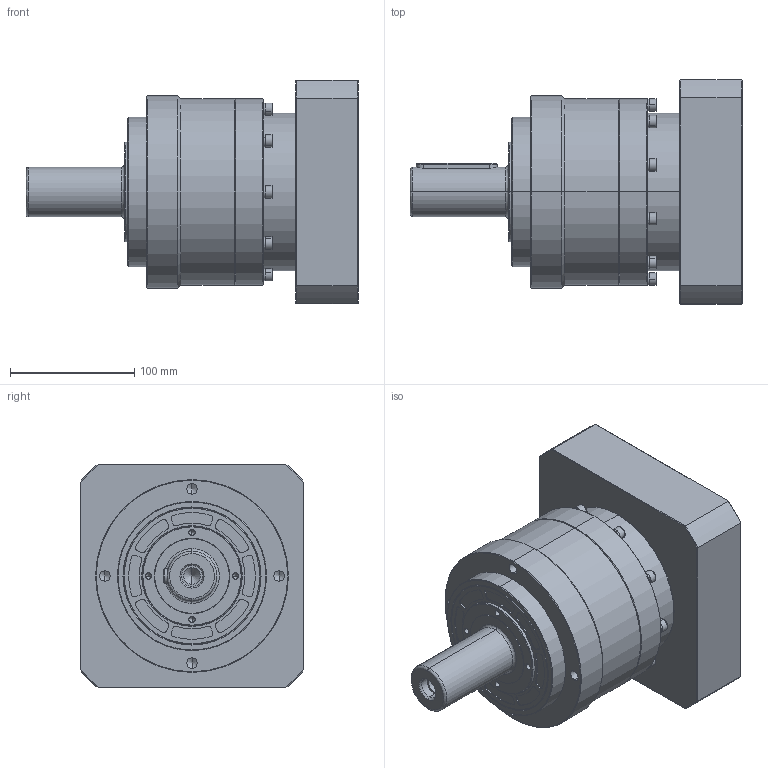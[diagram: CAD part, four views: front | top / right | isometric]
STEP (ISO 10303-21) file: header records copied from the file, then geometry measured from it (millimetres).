
FILE_DESCRIPTION (( 'STEP AP214' ), '1' );
FILE_NAME ('VRL-155-L1-S2-P1 35-114.3-200-M12.STEP', '2023-07-14T03:10:14', ( '微软用户' ), ( '微软中国' ), 'SwSTEP 2.0', 'SolidWorks 2018', '' );
FILE_SCHEMA (( 'AUTOMOTIVE_DESIGN' ));
Length unit declared in the file: millimetre
Products named in the file (12): 一级齿圈加出轴VRL-155外形图; hexagon socket head cap screws gb_GB_FASTENER_SCREWS_HSHCS M6X35-N; spring lock washers--normal type gb_GB_FASTENER_WASHER_SW 6; 標杶D40 VRB-142-35謂蚚; hexagon socket head cap screws gb_GB_FASTENER_SCREWS_HSHCS M10X35-N; spring lock washers--normal type gb_GB_FASTENER_WASHER_SW 8; VRL-155-L1-S2-P1 35-114.3-200-M12; 萇儂楊VRB-142-114.3-M12-200F180H47; hex socket set screws with flat point gb_GB_FASTENER_SCREWS_HSFP M16X16-N; hexagon socket head cap screws gb_GB_FASTENER_SCREWS_HSHCS M8X30-N; 一级整体太阳轮VRB-142-D35外形图; 笢潔楊擘VRB-142俋倛芞
Assembly tree (39 placements, depth 2):
  VRL-155-L1-S2-P1 35-114.3-200-M12
    一级齿圈加出轴VRL-155外形图
    笢潔楊擘VRB-142俋倛芞
    萇儂楊VRB-142-114.3-M12-200F180H47
    spring lock washers--normal type gb_GB_FASTENER_WASHER_SW 6  x10
    hexagon socket head cap screws gb_GB_FASTENER_SCREWS_HSHCS M6X35-N  x10
    spring lock washers--normal type gb_GB_FASTENER_WASHER_SW 8  x6
    hexagon socket head cap screws gb_GB_FASTENER_SCREWS_HSHCS M8X30-N  x6
    hex socket set screws with flat point gb_GB_FASTENER_SCREWS_HSFP M16X16-N
    hexagon socket head cap screws gb_GB_FASTENER_SCREWS_HSHCS M10X35-N
    一级整体太阳轮VRB-142-D35外形图
    標杶D40 VRB-142-35謂蚚
Bounding box: 267 x 180 x 180 mm (x, y, z)
Volume: 3458033.1 mm3; surface area: 336015.6 mm2
Topology: 39 solids, 39 shells, 1036 faces, 2498 edges, 1541 vertices
Faces by surface type: plane 440, cylinder 378, cone 180, bspline 38
Entity records: 17450 total; most frequent: CARTESIAN_POINT 3471, DIRECTION 3036, ORIENTED_EDGE 2664, EDGE_CURVE 1332, AXIS2_PLACEMENT_3D 1220, VERTEX_POINT 855, CIRCLE 642, EDGE_LOOP 635
